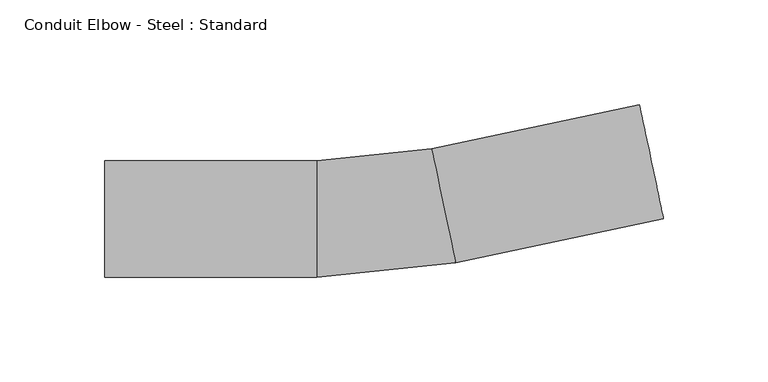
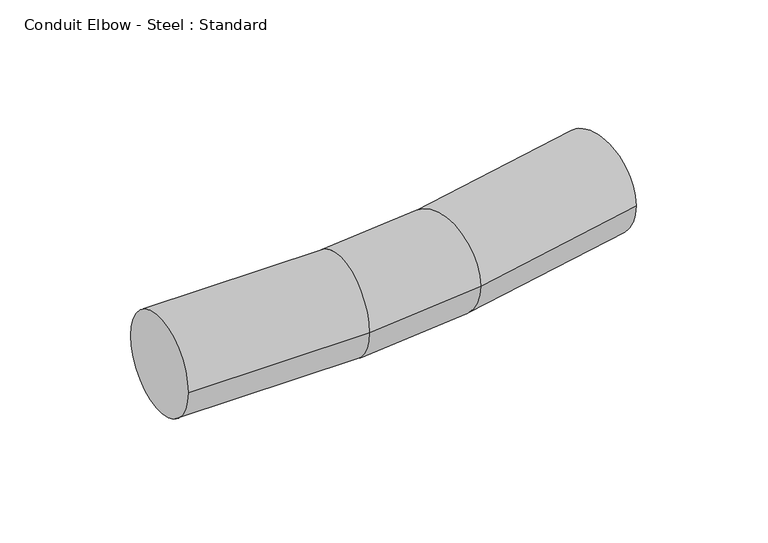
"""IFC4 building model written with IfcOpenShell, lengths in millimetres: cable carrier fitting geometry, Conduit Elbow - Steel : Standard."""

from ifc_helpers import new_model, si_unit, point, frame, origin, place, context, project, spatial, circle_curve, ellipse_curve, trimmed, source, transform, mapped, element, save
from ifc_brep_helpers import plane_surface, cylinder_surface, revolved_surface, advanced_brep


def conduit_elbow_steel_standard_2012344a(model_context):
    return source(origin(), model_context, "Body", "AdvancedBrep", [
        advanced_brep(
        [(-132.2424615, -27.9019, 0.0), (-132.2424615, 27.9019, 0.0), (-30.6424615, -27.9019, 0.0), (-30.6424615, 27.9019, 0.0), (24.1850505, 33.6535259, 0.0), (35.7656921, -20.9354183, 0.0), (135.1538473, 0.1490453, 0.0), (123.5732057, 54.7379895, 0.0)],
        [
            (0, 1, circle_curve(frame((-132.2424615, 0.0, 0.0), z_axis=(-1.0, 0.0, 0.0), x_axis=(0.0, 1.0, 0.0)), 27.9019)),
            (1, 0, circle_curve(frame((-132.2424615, 0.0, 0.0), z_axis=(-1.0, 0.0, 0.0), x_axis=(0.0, 1.0, 0.0)), 27.9019)),
            (0, 2),
            (2, 3, circle_curve(frame((-30.6424615, 0.0, 0.0), z_axis=(-1.0, 0.0, 0.0), x_axis=(0.0, 1.0, 0.0)), 27.9019)),
            (3, 1),
            (3, 2, circle_curve(frame((-30.6424615, 0.0, 0.0), z_axis=(-1.0, 0.0, 0.0), x_axis=(0.0, 1.0, 0.0)), 27.9019)),
            (4, 3, circle_curve(frame((-30.6424615, 292.1, 0.0), z_axis=(0.0, 0.0, -1.0), x_axis=(0.0, -1.0, 0.0)), 264.1981)),
            (2, 5, circle_curve(frame((-30.6424615, 292.1, 0.0), z_axis=(0.0, 0.0, 1.0), x_axis=(0.0, -1.0, 0.0)), 320.0019)),
            (5, 4, circle_curve(frame((29.9753713, 6.3590538, 0.0), z_axis=(-0.9782298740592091, -0.20752424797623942, 0.0), x_axis=(-0.20752424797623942, 0.9782298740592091, 0.0)), 27.9019)),
            (4, 5, circle_curve(frame((29.9753713, 6.3590538, 0.0), z_axis=(-0.9782298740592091, -0.20752424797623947, 0.0), x_axis=(-0.20752424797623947, 0.9782298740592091, 0.0)), 27.9019)),
            (6, 7, circle_curve(frame((129.3635265, 27.4435174, 0.0), z_axis=(0.9782298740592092, 0.20752424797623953, 0.0), x_axis=(-0.20752424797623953, 0.9782298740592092, 0.0)), 27.9019)),
            (7, 6, circle_curve(frame((129.3635265, 27.4435174, 0.0), z_axis=(0.9782298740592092, 0.20752424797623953, 0.0), x_axis=(-0.20752424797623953, 0.9782298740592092, 0.0)), 27.9019)),
            (5, 6),
            (7, 4),
        ],
        [
            plane_surface(frame((-132.2424615, 0.0, 0.0), z_axis=(-1.0, 0.0, 0.0), x_axis=(0.0, 0.0, 1.0))),
            cylinder_surface(frame((-132.2424615, 0.0, 0.0), z_axis=(-1.0, 0.0, 0.0), x_axis=(0.0, 1.0, 0.0)), 27.9019),
            revolved_surface(trimmed(ellipse_curve(frame((-30.6424615, 0.0, 0.0), z_axis=(-1.0, 0.0, 0.0), x_axis=(0.0, 1.0, 0.0)), 27.9019, 27.9019), [point((-30.6424615, -27.9019, 0.0))], [point((-30.6424615, 27.9019, 0.0))], True, "CARTESIAN"), (-30.6424615, 292.1, 0.0), (0.0, 0.0, 1.0)),
            revolved_surface(trimmed(ellipse_curve(frame((-30.6424615, 0.0, 0.0), z_axis=(-1.0, 0.0, 0.0), x_axis=(0.0, 1.0, 0.0)), 27.9019, 27.9019), [point((-30.6424615, 27.9019, 0.0))], [point((-30.6424615, -27.9019, 0.0))], True, "CARTESIAN"), (-30.6424615, 292.1, 0.0), (0.0, 0.0, 1.0)),
            plane_surface(frame((129.3635265, 27.4435174, 0.0), z_axis=(0.9782298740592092, 0.20752424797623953, 0.0), x_axis=(0.0, 0.0, 1.0))),
            cylinder_surface(frame((29.9753713, 6.3590538, 0.0), z_axis=(-0.9782298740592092, -0.20752424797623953, 0.0), x_axis=(-0.20752424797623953, 0.9782298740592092, 0.0)), 27.9019),
        ],
        [
            (0, [[1, 2]]),
            (1, [[-1, 3, 4, 5]]),
            (1, [[-2, -5, 6, -3]]),
            (2, [[7, -4, 8, 9]]),
            (3, [[-8, -6, -7, 10]]),
            (4, [[11, 12]]),
            (5, [[-9, 13, -12, 14]]),
            (5, [[-10, -14, -11, -13]]),
        ],
    ),
    ])


if __name__ == "__main__":
    model = new_model("IFC4")
    model_context = context("Model", 3, world=origin())
    ifc_project = project(units=[si_unit("LENGTHUNIT", "METRE", prefix="MILLI")], contexts=[model_context])
    site = spatial("IfcSite", under=ifc_project)
    building = spatial("IfcBuilding", under=site)
    placement = place(None, origin())
    conduit_elbow_steel_standard_shape = conduit_elbow_steel_standard_2012344a(model_context)
    element("IfcCableCarrierFitting", 1, ObjectType="Conduit Elbow - Steel : Standard", at=placement, inside=building, context=model_context, shape_type="MappedRepresentation", body=[
        mapped(conduit_elbow_steel_standard_shape, transform((0.0, 0.0, 0.0), x_axis=(1.0, 0.0, 0.0), y_axis=(0.0, 1.0, 0.0), z_axis=(0.0, 0.0, 1.0))),
    ])
    save(model, "model.ifc")
